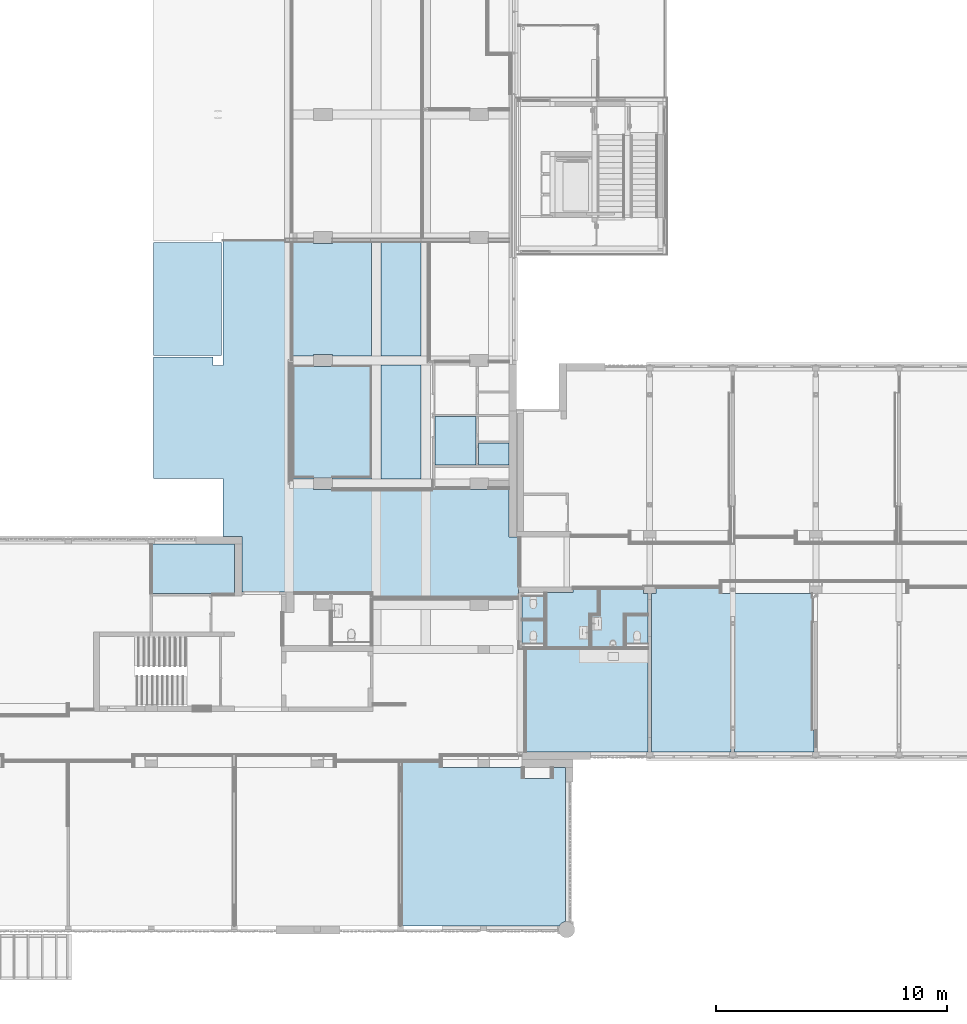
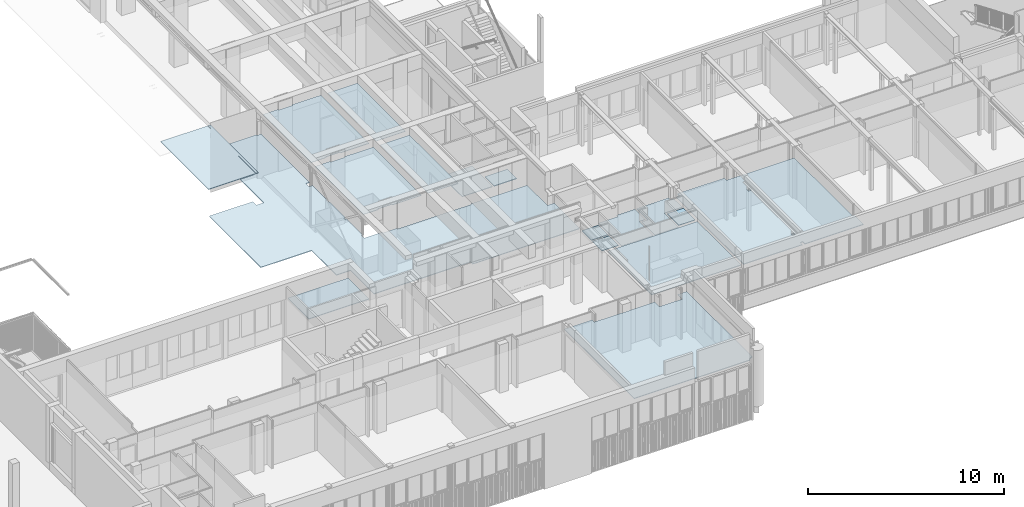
# One storey, part 32 of 117: 17 slabs.
"""IFC2X3 building model written with IfcOpenShell, lengths in millimetres."""

from ifc_helpers import new_model, entity, si_unit, converted_unit, derived_unit, money_unit, direction, frame, origin_with_axes, place, context, subcontext, project, spatial, faceted_brep, material, type_object, element, save


model = new_model("IFC2X3")

# Units and contexts
model_context = context("Model", 3, precision=0.01, world=origin_with_axes(), true_north=direction((0.0, 1.0)))
body_context = subcontext(model_context, "Body", "Model", "MODEL_VIEW")
ifc_project = project(units=[si_unit("LENGTHUNIT", "METRE", prefix="MILLI"), si_unit("AREAUNIT", "SQUARE_METRE"), si_unit("VOLUMEUNIT", "CUBIC_METRE"), converted_unit("PLANEANGLEUNIT", "DEGREE", entity("IfcPlaneAngleMeasure", 0.0174532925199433), si_unit("PLANEANGLEUNIT", "RADIAN"), dimensions=[0, 0, 0, 0, 0, 0, 0]), money_unit("EUR"), converted_unit("TIMEUNIT", "Year", entity("IfcTimeMeasure", 31557600.0), si_unit("TIMEUNIT", "SECOND"), dimensions=[0, 0, 1, 0, 0, 0, 0]), si_unit("MASSUNIT", "GRAM", prefix="KILO"), si_unit("THERMODYNAMICTEMPERATUREUNIT", "DEGREE_CELSIUS"), si_unit("LUMINOUSINTENSITYUNIT", "LUMEN"), si_unit("ENERGYUNIT", "JOULE", prefix="MEGA"), derived_unit("THERMALCONDUCTANCEUNIT", [(si_unit("POWERUNIT", "WATT"), 1), (si_unit("LENGTHUNIT", "METRE"), -1), (si_unit("THERMODYNAMICTEMPERATUREUNIT", "KELVIN"), -1)]), derived_unit("SPECIFICHEATCAPACITYUNIT", [(si_unit("ENERGYUNIT", "JOULE"), 1), (si_unit("MASSUNIT", "GRAM", prefix="KILO"), -1), (si_unit("THERMODYNAMICTEMPERATUREUNIT", "KELVIN"), -1)]), derived_unit("MASSDENSITYUNIT", [(si_unit("MASSUNIT", "GRAM", prefix="KILO"), 1), (si_unit("VOLUMEUNIT", "CUBIC_METRE"), -1)])], contexts=[model_context])

# Site, building, storey
site_placement = place(None, origin_with_axes())
site = spatial("IfcSite", under=ifc_project, at=site_placement, Name="Site", CompositionType="ELEMENT")
building_placement = place(site_placement, origin_with_axes())
building = spatial("IfcBuilding", under=site, at=building_placement, Name="Naam gebouw", CompositionType="ELEMENT")
storey_placement = place(building_placement, frame((0.0, 0.0, 4150.0), z_axis=(0.0, 0.0, 1.0), x_axis=(1.0, 0.0, 0.0)))
storey = spatial("IfcBuildingStorey", under=building, at=storey_placement, Name="1e verdieping N", CompositionType="ELEMENT", Elevation=4150.0)

# Slabs
ifc_material = material(Name="ALG - BINNENAFWERKING")
slab_type_1 = type_object("IfcSlabType", Name="ALG - BINNENAFWERKING 40", PredefinedType="NOTDEFINED")
slab_1_placement = place(storey_placement, frame((36270.00000536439, 17870.91239447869, 2450.0), z_axis=(0.0, 0.0, 1.0), x_axis=(1.0, 0.0, 0.0)))
element("IfcSlab", 1, at=slab_1_placement, inside=storey, type_object=slab_type_1, material=ifc_material, Name="_Vloer-x", PredefinedType="NOTDEFINED", context=body_context, shape_type="Brep", body=[
    faceted_brep([(3269.999994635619, -5914.999969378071, 40.00000000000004), (3389.999994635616, -5914.999969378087, 40.00000000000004), (3389.999994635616, -5794.999969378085, 40.00000000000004), (3269.999994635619, -5794.999969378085, 40.00000000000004), (3269.999994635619, -5914.999969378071, 0.0), (3389.999994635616, -5914.999969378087, 0.0), (3389.999994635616, -5794.999969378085, 0.0), (3269.999994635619, -5794.999969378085, 0.0)], [[[0, 1, 2, 3]], [[4, 5, 1, 0]], [[5, 6, 2, 1]], [[3, 2, 6, 7]], [[7, 4, 0, 3]], [[7, 6, 5, 4]]]),
    faceted_brep([(3269.999994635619, -1369.999969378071, 40.00000000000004), (3389.999994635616, -1369.999969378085, 40.00000000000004), (3389.999994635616, -1249.999969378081, 40.00000000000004), (3269.999994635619, -1249.999969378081, 40.00000000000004), (3269.999994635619, -1369.999969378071, 0.0), (3389.999994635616, -1369.999969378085, 0.0), (3389.999994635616, -1249.999969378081, 0.0), (3269.999994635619, -1249.999969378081, 0.0)], [[[0, 1, 2, 3]], [[4, 5, 1, 0]], [[5, 6, 2, 1]], [[3, 2, 6, 7]], [[7, 4, 0, 3]], [[7, 6, 5, 4]]]),
    faceted_brep([(3414.999994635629, -1224.999969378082, 0.0), (3414.999994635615, -1249.999969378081, 0.0), (3414.999994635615, -1249.999969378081, 40.00000000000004), (3414.999994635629, -1224.999969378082, 40.00000000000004), (-195.0000053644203, -6879.999969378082, 0.0), (-195.0000053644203, 0.0, 0.0), (0.0, 0.0, 0.0), (0.0, 225.0000306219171, 0.0), (2759.99999448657, 225.0000306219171, 0.0), (2759.99999448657, 0.0, 0.0), (6754.999994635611, 0.0, 0.0), (6754.999994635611, -5939.999919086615, 0.0), (6855.000001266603, -5939.999919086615, 0.0), (6855.000001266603, -6879.999969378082, 0.0), (3404.999955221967, -6879.999969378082, 0.0), (3404.999955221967, -6669.999969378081, 0.0), (3255.000040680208, -6669.999969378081, 0.0), (3255.000040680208, -6879.999969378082, 0.0), (3414.999994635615, -5939.999969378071, 0.0), (3414.999994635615, -5914.999969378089, 0.0), (3414.999994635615, -5794.999969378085, 0.0), (3414.999994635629, -5769.999969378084, 0.0), (3269.999994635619, -5769.999969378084, 0.0), (3244.99999463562, -5769.999969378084, 0.0), (3244.99999463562, -5939.999969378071, 0.0), (3269.999994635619, -5939.999969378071, 0.0), (3414.999994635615, -1394.99996937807, 0.0), (3414.999994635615, -1369.999969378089, 0.0), (3269.999994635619, -1224.999969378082, 0.0), (3244.99999463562, -1224.999969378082, 0.0), (3244.99999463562, -1394.99996937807, 0.0), (3269.999994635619, -1394.99996937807, 0.0), (3414.999994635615, -1369.999969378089, 40.00000000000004), (2759.99999448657, 225.0000306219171, 40.00000000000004), (0.0, 225.0000306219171, 40.00000000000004), (0.0, 0.0, 40.00000000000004), (-195.0000053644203, 0.0, 40.00000000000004), (-195.0000053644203, -6879.999969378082, 40.00000000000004), (3255.000040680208, -6879.999969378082, 40.00000000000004), (3255.000040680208, -6669.999969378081, 40.00000000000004), (3404.999955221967, -6669.999969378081, 40.00000000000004), (3404.999955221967, -6879.999969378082, 40.00000000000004), (6855.000001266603, -6879.999969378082, 40.00000000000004), (6855.000001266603, -5939.999919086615, 40.00000000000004), (6754.999994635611, -5939.999919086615, 40.00000000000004), (6754.999994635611, 0.0, 40.00000000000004), (2759.99999448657, 0.0, 40.00000000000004), (3414.999994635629, -5769.999969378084, 40.00000000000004), (3414.999994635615, -5794.999969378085, 40.00000000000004), (3414.999994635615, -5914.999969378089, 40.00000000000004), (3414.999994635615, -5939.999969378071, 40.00000000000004), (3269.999994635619, -5939.999969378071, 40.00000000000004), (3244.99999463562, -5939.999969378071, 40.00000000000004), (3244.99999463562, -5769.999969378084, 40.00000000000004), (3269.999994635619, -5769.999969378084, 40.00000000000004), (3414.999994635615, -1394.99996937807, 40.00000000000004), (3269.999994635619, -1394.99996937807, 40.00000000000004), (3244.99999463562, -1394.99996937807, 40.00000000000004), (3244.99999463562, -1224.999969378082, 40.00000000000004), (3269.999994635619, -1224.999969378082, 40.00000000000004)], [[[0, 1, 2, 3]], [[4, 5, 6, 7, 8, 9, 10, 11, 12, 13, 14, 15, 16, 17], [18, 19, 20, 21, 22, 23, 24, 25], [26, 27, 1, 0, 28, 29, 30, 31]], [[27, 32, 2, 1]], [[33, 34, 35, 36, 37, 38, 39, 40, 41, 42, 43, 44, 45, 46], [47, 48, 49, 50, 51, 52, 53, 54], [3, 2, 32, 55, 56, 57, 58, 59]], [[0, 3, 59, 28]], [[37, 36, 5, 4]], [[36, 35, 6, 5]], [[35, 34, 7, 6]], [[34, 33, 8, 7]], [[33, 46, 9, 8]], [[46, 45, 10, 9]], [[45, 44, 11, 10]], [[44, 43, 12, 11]], [[43, 42, 13, 12]], [[42, 41, 14, 13]], [[41, 40, 15, 14]], [[40, 39, 16, 15]], [[39, 38, 17, 16]], [[38, 37, 4, 17]], [[50, 49, 19, 18]], [[19, 49, 48, 20]], [[21, 20, 48, 47]], [[21, 47, 54, 22]], [[23, 22, 54, 53]], [[23, 53, 52, 24]], [[52, 51, 25, 24]], [[25, 51, 50, 18]], [[55, 32, 27, 26]], [[29, 28, 59, 58]], [[29, 58, 57, 30]], [[57, 56, 31, 30]], [[31, 56, 55, 26]]]),
])
slab_2_placement = place(storey_placement, frame((30656.99999999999, 10990.91242510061, 2450.0), z_axis=(0.0, 0.0, 1.0), x_axis=(1.0, 0.0, 0.0)))
element("IfcSlab", 2, at=slab_2_placement, inside=storey, type_object=slab_type_1, material=ifc_material, Name="_Vloer-x", PredefinedType="NOTDEFINED", context=body_context, shape_type="Brep", body=[
    faceted_brep([(0.0, 0.0, 40.00000000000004), (0.0, 0.0, 0.0), (5268.000000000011, 0.0, 0.0), (5268.000000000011, 0.0, 40.00000000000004), (0.0, 4450.000000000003, 40.00000000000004), (0.0, 4450.000000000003, 0.0), (5268.000000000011, 4450.000000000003, 0.0), (5268.000000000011, 4450.000000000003, 40.00000000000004)], [[[0, 1, 2, 3]], [[4, 5, 1, 0]], [[2, 1, 5, 6]], [[3, 2, 6, 7]], [[4, 0, 3, 7]], [[7, 6, 5, 4]]]),
])
slab_3_placement = place(storey_placement, frame((25275.0, 10555.91242510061, 2450.0), z_axis=(0.0, 0.0, 1.0), x_axis=(1.0, 0.0, 0.0)))
element("IfcSlab", 3, at=slab_3_placement, inside=storey, type_object=slab_type_1, material=ifc_material, Name="_Vloer-x", PredefinedType="NOTDEFINED", context=body_context, shape_type="Brep", body=[
    faceted_brep([(5181.999999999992, -224.9999999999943, 0.0), (3775.000000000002, -224.9999999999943, 0.0), (3775.000000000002, -224.9999999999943, 40.00000000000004), (5181.999999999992, -224.9999999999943, 40.00000000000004), (3275.000000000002, -237.5000000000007, 0.0), (3775.000000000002, -237.5000000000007, 0.0), (5181.999999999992, -699.9999999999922, 0.0), (6536.187099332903, -699.9999999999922, 0.0), (6536.187099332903, -224.9999999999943, 0.0), (7070.470260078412, -224.9999999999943, 0.0), (7070.470260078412, -6910.277963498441, 0.0), (7026.393605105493, -6919.866252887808, 0.0), (6979.60474544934, -6937.317595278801, 0.0), (6935.775713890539, -6961.250057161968, 0.0), (6895.798743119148, -6991.176442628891, 0.0), (6860.487648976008, -7026.487536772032, 0.0), (6830.561263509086, -7066.464507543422, 0.0), (6806.656006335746, -7110.243717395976, 0.0), (0.0, -7110.243717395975, 0.0), (0.0, 0.0, 0.0), (1624.999999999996, 0.0, 0.0), (1624.999999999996, -224.9999999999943, 0.0), (3275.000000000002, -224.9999999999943, 0.0), (3775.000000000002, -237.5000000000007, 40.00000000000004), (3275.000000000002, -237.5000000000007, 40.00000000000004), (3275.000000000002, -224.9999999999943, 40.00000000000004), (1624.999999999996, -224.9999999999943, 40.00000000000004), (1624.999999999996, 0.0, 40.00000000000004), (0.0, 0.0, 40.00000000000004), (0.0, -7110.243717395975, 40.00000000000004), (6806.656006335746, -7110.243717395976, 40.00000000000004), (6830.561263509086, -7066.464507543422, 40.00000000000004), (6860.487648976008, -7026.487536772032, 40.00000000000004), (6895.798743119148, -6991.176442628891, 40.00000000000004), (6935.775713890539, -6961.250057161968, 40.00000000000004), (6979.60474544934, -6937.317595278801, 40.00000000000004), (7026.393605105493, -6919.866252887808, 40.00000000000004), (7070.470260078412, -6910.277963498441, 40.00000000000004), (7070.470260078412, -224.9999999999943, 40.00000000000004), (6536.187099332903, -224.9999999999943, 40.00000000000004), (6536.187099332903, -699.9999999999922, 40.00000000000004), (5181.999999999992, -699.9999999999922, 40.00000000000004)], [[[0, 1, 2, 3]], [[4, 5, 1, 0, 6, 7, 8, 9, 10, 11, 12, 13, 14, 15, 16, 17, 18, 19, 20, 21, 22]], [[5, 23, 2, 1]], [[23, 24, 25, 26, 27, 28, 29, 30, 31, 32, 33, 34, 35, 36, 37, 38, 39, 40, 41, 3, 2]], [[0, 3, 41, 6]], [[4, 24, 23, 5]], [[6, 41, 40, 7]], [[7, 40, 39, 8]], [[8, 39, 38, 9]], [[38, 37, 10, 9]], [[11, 10, 37, 36]], [[11, 36, 35, 12]], [[12, 35, 34, 13]], [[13, 34, 33, 14]], [[14, 33, 32, 15]], [[15, 32, 31, 16]], [[16, 31, 30, 17]], [[18, 17, 30, 29]], [[18, 29, 28, 19]], [[19, 28, 27, 20]], [[20, 27, 26, 21]], [[26, 25, 22, 21]], [[4, 22, 25, 24]]]),
])
slab_4_placement = place(storey_placement, frame((34975.00000000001, 15690.91242510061, 2400.0), z_axis=(0.0, 0.0, 1.0), x_axis=(1.0, 0.0, 0.0)))
element("IfcSlab", 4, at=slab_4_placement, inside=storey, type_object=slab_type_1, material=ifc_material, Name="_Vloer-x", PredefinedType="NOTDEFINED", context=body_context, shape_type="Brep", body=[
    faceted_brep([(949.9999999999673, 0.0, 0.0), (949.9999999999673, 1200.000000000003, 0.0), (949.9999999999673, 1200.000000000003, 39.99999999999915), (949.9999999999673, 0.0, 39.99999999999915), (0.0, 0.0, 0.0), (0.0, 1200.000000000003, 0.0), (0.0, 1200.000000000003, 39.99999999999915), (0.0, 0.0, 39.99999999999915)], [[[0, 1, 2, 3]], [[4, 5, 1, 0]], [[5, 6, 2, 1]], [[3, 2, 6, 7]], [[3, 7, 4, 0]], [[7, 6, 5, 4]]]),
])
slab_5_placement = place(storey_placement, frame((30456.99999999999, 15800.91241914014, 2400.0), z_axis=(0.0, 0.0, 1.0), x_axis=(1.0, 0.0, 0.0)))
element("IfcSlab", 5, at=slab_5_placement, inside=storey, type_object=slab_type_1, material=ifc_material, Name="_Vloer-x", PredefinedType="NOTDEFINED", context=body_context, shape_type="Brep", body=[
    faceted_brep([(0.0, -109.99999403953, 39.99999999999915), (0.0, -109.99999403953, 0.0), (972.187094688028, -109.99999403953, 0.0), (972.187094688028, -109.99999403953, 39.99999999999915), (0.0, 870.0000059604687, 39.99999999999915), (0.0, 870.0000059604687, 0.0), (972.187094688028, 870.0000059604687, 0.0), (972.187094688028, 870.0000059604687, 39.99999999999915)], [[[0, 1, 2, 3]], [[4, 5, 1, 0]], [[1, 5, 6, 2]], [[3, 2, 6, 7]], [[4, 0, 3, 7]], [[7, 6, 5, 4]]]),
])
slab_6_placement = place(storey_placement, frame((30456.99999999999, 16770.91242510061, 2400.0), z_axis=(0.0, 0.0, 1.0), x_axis=(1.0, 0.0, 0.0)))
element("IfcSlab", 6, at=slab_6_placement, inside=storey, type_object=slab_type_1, material=ifc_material, Name="_Vloer-x", PredefinedType="NOTDEFINED", context=body_context, shape_type="Brep", body=[
    faceted_brep([(0.0, 0.0, 39.99999999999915), (0.0, 0.0, 0.0), (972.187094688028, 0.0, 0.0), (972.187094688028, 0.0, 39.99999999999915), (0.0, 980.0000000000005, 39.99999999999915), (0.0, 980.0000000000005, 0.0), (972.187094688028, 980.0000000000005, 0.0), (972.187094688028, 980.0000000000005, 39.99999999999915)], [[[0, 1, 2, 3]], [[4, 5, 1, 0]], [[2, 1, 5, 6]], [[3, 2, 6, 7]], [[4, 0, 3, 7]], [[7, 6, 5, 4]]]),
])
slab_7_placement = place(storey_placement, frame((31529.18709933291, 15540.91242510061, 2400.0), z_axis=(0.0, 0.0, 1.0), x_axis=(1.0, 0.0, 0.0)))
element("IfcSlab", 7, at=slab_7_placement, inside=storey, type_object=slab_type_1, material=ifc_material, Name="_Vloer-x", PredefinedType="NOTDEFINED", context=body_context, shape_type="Brep", body=[
    faceted_brep([(0.0, 0.0, 39.99999999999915), (0.0, 0.0, 0.0), (1853.931081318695, 0.0, 0.0), (1853.931081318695, 0.0, 39.99999999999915), (0.0, 2360.000002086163, 39.99999999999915), (0.0, 2360.000002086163, 0.0), (1139.999999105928, 2360.000002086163, 0.0), (1139.999999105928, 2509.999999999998, 0.0), (2220.000014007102, 2509.999999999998, 0.0), (2220.000014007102, 1450.000004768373, 0.0), (1853.931081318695, 1450.000004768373, 0.0), (1853.931081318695, 1450.000004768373, 39.99999999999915), (2220.000014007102, 1450.000004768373, 39.99999999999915), (2220.000014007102, 2509.999999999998, 39.99999999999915), (1139.999999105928, 2509.999999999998, 39.99999999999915), (1139.999999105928, 2360.000002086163, 39.99999999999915)], [[[0, 1, 2, 3]], [[4, 5, 1, 0]], [[2, 1, 5, 6, 7, 8, 9, 10]], [[3, 2, 10, 11]], [[4, 0, 3, 11, 12, 13, 14, 15]], [[15, 6, 5, 4]], [[14, 7, 6, 15]], [[13, 8, 7, 14]], [[12, 9, 8, 13]], [[11, 10, 9, 12]]]),
])
slab_8_placement = place(storey_placement, frame((33483.11817762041, 15540.91242510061, 2400.0), z_axis=(0.0, 0.0, 1.0), x_axis=(1.0, 0.0, 0.0)))
element("IfcSlab", 8, at=slab_8_placement, inside=storey, type_object=slab_type_1, material=ifc_material, Name="_Vloer-x", PredefinedType="NOTDEFINED", context=body_context, shape_type="Brep", body=[
    faceted_brep([(0.0, 0.0, 39.99999999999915), (0.0, 0.0, 0.0), (1391.881822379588, 0.0, 0.0), (1391.881822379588, 0.0, 39.99999999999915), (0.0, 1350.000000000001, 39.99999999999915), (0.0, 1350.000000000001, 0.0), (366.0689217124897, 1350.000000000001, 0.0), (366.0689217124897, 2509.999999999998, 0.0), (2246.881822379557, 2509.999999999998, 0.0), (2246.881822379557, 2329.999999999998, 0.0), (2441.881826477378, 2329.999999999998, 0.0), (2441.881826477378, 1450.000000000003, 0.0), (1391.881822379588, 1450.000000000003, 0.0), (1391.881822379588, 1450.000000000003, 39.99999999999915), (2441.881826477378, 1450.000000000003, 39.99999999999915), (2441.881826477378, 2329.999999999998, 39.99999999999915), (2246.881822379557, 2329.999999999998, 39.99999999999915), (2246.881822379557, 2509.999999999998, 39.99999999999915), (366.0689217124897, 2509.999999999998, 39.99999999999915), (366.0689217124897, 1350.000000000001, 39.99999999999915)], [[[0, 1, 2, 3]], [[4, 5, 1, 0]], [[2, 1, 5, 6, 7, 8, 9, 10, 11, 12]], [[3, 2, 12, 13]], [[4, 0, 3, 13, 14, 15, 16, 17, 18, 19]], [[19, 6, 5, 4]], [[18, 7, 6, 19]], [[17, 8, 7, 18]], [[16, 9, 8, 17]], [[15, 10, 9, 16]], [[14, 11, 10, 15]], [[13, 12, 11, 14]]]),
])
slab_9_placement = place(storey_placement, frame((14450.0, 17856.42315075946, 2450.0), z_axis=(0.0, 0.0, 1.0), x_axis=(1.0, 0.0, 0.0)))
element("IfcSlab", 9, at=slab_9_placement, inside=storey, type_object=slab_type_1, material=ifc_material, Name="_Vloer-x", PredefinedType="NOTDEFINED", context=body_context, shape_type="Brep", body=[
    faceted_brep([(3550.000009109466, 2139.490066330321, 0.0), (87.50000000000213, 2139.490066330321, 0.0), (87.50000000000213, 2139.490066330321, 40.00000000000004), (3550.000009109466, 2139.490066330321, 40.00000000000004), (0.0, 2139.471377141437, 0.0), (87.50000000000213, 2139.471377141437, 0.0), (3550.000009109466, 0.0, 0.0), (0.0, 0.0, 0.0), (87.50000000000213, 2139.471377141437, 40.00000000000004), (0.0, 2139.471377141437, 40.00000000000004), (0.0, 0.0, 40.00000000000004), (3550.000009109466, 0.0, 40.00000000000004)], [[[0, 1, 2, 3]], [[4, 5, 1, 0, 6, 7]], [[5, 8, 2, 1]], [[2, 8, 9, 10, 11, 3]], [[6, 0, 3, 11]], [[4, 9, 8, 5]], [[7, 6, 11, 10]], [[10, 9, 4, 7]]]),
])
slab_10_placement = place(storey_placement, frame((28576.0, 23425.91242510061, 2400.0), z_axis=(0.0, 0.0, 1.0), x_axis=(1.0, 0.0, 0.0)))
element("IfcSlab", 10, at=slab_10_placement, inside=storey, type_object=slab_type_1, material=ifc_material, Name="_Vloer-x", PredefinedType="NOTDEFINED", context=body_context, shape_type="Brep", body=[
    faceted_brep([(0.0, 0.0, 39.99999999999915), (0.0, 0.0, 0.0), (1329.999999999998, 0.0, 0.0), (1329.999999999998, 0.0, 39.99999999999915), (0.0, 949.8533992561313, 39.99999999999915), (0.0, 949.8533992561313, 0.0), (1329.999999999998, 949.8533992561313, 0.0), (1329.999999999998, 949.8533992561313, 39.99999999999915)], [[[0, 1, 2, 3]], [[4, 5, 1, 0]], [[2, 1, 5, 6]], [[3, 2, 6, 7]], [[4, 0, 3, 7]], [[7, 6, 5, 4]]]),
])
slab_11_placement = place(storey_placement, frame((28475.99999160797, 25525.76582988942, 2400.0), z_axis=(0.0, 0.0, 1.0), x_axis=(1.0, 0.0, 0.0)))
element("IfcSlab", 11, at=slab_11_placement, inside=storey, type_object=slab_type_1, material=ifc_material, Name="_Vloer-x", PredefinedType="NOTDEFINED", context=body_context, shape_type="Brep", body=[
    faceted_brep([(0.0, 0.0, 39.99999999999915), (0.0, 0.0, 0.0), (-1789.999991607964, 0.0, 0.0), (-1789.999991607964, 0.0, 39.99999999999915), (0.0, -2099.853404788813, 39.99999999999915), (0.0, -2099.853404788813, 0.0), (-1789.999991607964, -2099.853404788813, 0.0), (-1789.999991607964, -2099.853404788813, 39.99999999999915)], [[[0, 1, 2, 3]], [[4, 5, 1, 0]], [[2, 1, 5, 6]], [[3, 2, 6, 7]], [[4, 0, 3, 7]], [[7, 6, 5, 4]]]),
])
slab_12_placement = place(storey_placement, frame((14507.00000003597, 33070.91242630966, 4239.999999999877), z_axis=(0.0, 0.0, 1.0), x_axis=(1.0, 0.0, 0.0)))
element("IfcSlab", 12, at=slab_12_placement, inside=storey, type_object=slab_type_1, material=ifc_material, Name="_Vloer-x", PredefinedType="NOTDEFINED", context=body_context, shape_type="Brep", body=[
    faceted_brep([(0.0, -4899.999999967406, 40.00000000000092), (2777.892304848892, -4899.999999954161, 40.00000000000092), (2777.892304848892, 2.867039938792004e-08, 40.00000000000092), (0.0, 0.0, 40.00000000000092), (2766.00000000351, -4899.999999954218, 22.61731409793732), (2775.882685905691, -4899.999999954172, 32.50000000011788), (0.0, -4899.999999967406, 0.0), (2635.00000000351, -4899.999999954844, 1.172395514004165e-10), (2635.00000000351, -4899.999999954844, 19.00000000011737), (2752.500000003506, -4899.999999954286, 19.00000000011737), (2775.882685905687, 2.953015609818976e-08, 32.50000000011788), (2752.500000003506, 2.941646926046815e-08, 19.00000000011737), (2635.00000000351, 2.885514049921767e-08, 19.00000000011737), (2635.00000000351, 2.719957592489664e-08, 1.172395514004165e-10), (0.0, 0.0, 0.0), (2766.000000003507, 2.948041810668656e-08, 22.61731409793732)], [[[0, 1, 2, 3]], [[4, 5, 1, 0, 6, 7, 8, 9]], [[5, 10, 2, 1]], [[11, 12, 13, 14, 3, 2, 10, 15]], [[0, 3, 14, 6]], [[4, 15, 10, 5]], [[14, 13, 7, 6]], [[7, 13, 12, 8]], [[8, 12, 11, 9]], [[9, 11, 15, 4]]]),
    faceted_brep([(2933.99999995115, -4899.999999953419, 40.00000000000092), (2933.99999995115, -4899.999999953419, 19.00000000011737), (2933.999999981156, 3.028333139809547e-08, 19.00000000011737), (2933.999999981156, 3.028333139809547e-08, 40.00000000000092), (2804.00000000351, -4899.999999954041, 22.61731409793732), (2817.500000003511, -4899.999999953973, 19.00000000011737), (2792.107695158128, -4899.999999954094, 40.00000000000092), (2794.11731410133, -4899.999999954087, 32.50000000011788), (2817.500000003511, 2.972910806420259e-08, 19.00000000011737), (2804.00000000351, 2.966515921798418e-08, 22.61731409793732), (2794.11731410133, 2.961542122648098e-08, 32.50000000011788), (2792.107695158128, 2.881961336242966e-08, 40.00000000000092)], [[[0, 1, 2, 3]], [[4, 5, 1, 0, 6, 7]], [[5, 8, 2, 1]], [[9, 10, 11, 3, 2, 8]], [[3, 11, 6, 0]], [[4, 9, 8, 5]], [[6, 11, 10, 7]], [[7, 10, 9, 4]]]),
])
slab_13_placement = place(storey_placement, frame((14507.00000000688, 22850.91242509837, 2609.999999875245), z_axis=(0.0, 0.0, 1.0), x_axis=(1.0, 0.0, 0.0)))
element("IfcSlab", 13, at=slab_13_placement, inside=storey, type_object=slab_type_1, material=ifc_material, Name="_Vloer-x", PredefinedType="NOTDEFINED", context=body_context, shape_type="Brep", body=[
    faceted_brep([(12078.99999999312, -474.9999076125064, 40.00000000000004), (12078.99999999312, -530.8146167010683, 40.00000000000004), (7738.999999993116, -530.8146167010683, 40.00000000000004), (7738.999999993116, -474.9999076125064, 40.00000000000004), (6918.999999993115, -474.9999076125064, 40.00000000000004), (6918.999999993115, -394.9843738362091, 40.00000000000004), (6029.000044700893, -394.9843738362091, 40.00000000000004), (5864.000000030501, -394.9843738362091, 40.00000000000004), (5864.000000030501, -94.98437378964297, 40.00000000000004), (5928.999999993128, -94.98437378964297, 40.00000000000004), (5928.999999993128, 4980.000001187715, 40.00000000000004), (5914.000000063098, 4980.000001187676, 40.00000000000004), (5704.000000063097, 4980.000001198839, 40.00000000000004), (5704.000000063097, 5300.000001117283, 40.00000000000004), (5928.999999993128, 5300.000001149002, 40.00000000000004), (5928.999999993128, 10234.99993741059, 40.00000000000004), (5698.999925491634, 10234.99993741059, 40.00000000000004), (5698.999925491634, 10305.00006258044, 40.00000000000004), (2999.000041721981, 10305.00006258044, 40.00000000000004), (2999.000041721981, 4890.000032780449, 40.00000000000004), (2568.999979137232, 4890.000032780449, 40.00000000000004), (2568.999979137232, 5254.999979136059, 40.00000000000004), (0.0, 5254.999979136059, 40.00000000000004), (0.0, 0.0, 40.00000000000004), (2999.000041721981, 0.0, 40.00000000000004), (2999.000041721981, -2524.997451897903, 40.00000000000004), (3822.999961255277, -2524.997451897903, 40.00000000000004), (3822.999961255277, -4926.161278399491, 40.00000000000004), (9495.999934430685, -4926.161278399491, 40.00000000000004), (9495.999934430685, -5134.99999999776, 40.00000000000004), (15799.9999999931, -5134.99999999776, 40.00000000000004), (15799.9999999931, -4799.999999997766, 40.00000000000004), (15797.99999999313, -4799.999999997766, 40.00000000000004), (15797.99999999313, -4699.999999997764, 40.00000000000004), (15799.9999999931, -4699.999999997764, 40.00000000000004), (15799.9999999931, -2550.000086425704, 40.00000000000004), (15399.00008343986, -2550.000086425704, 40.00000000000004), (15399.00008343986, -474.9999076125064, 40.00000000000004), (5876.499999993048, 3247.408009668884, 40.00000000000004), (5866.49999999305, 3247.408009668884, 40.00000000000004), (5866.49999999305, 3413.170430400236, 40.00000000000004), (5876.499999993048, 3413.170430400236, 40.00000000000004), (5861.499999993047, 1527.156852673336, 40.00000000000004), (5851.499999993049, 1527.156852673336, 40.00000000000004), (5851.499999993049, 1692.919273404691, 40.00000000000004), (5861.499999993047, 1692.919273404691, 40.00000000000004), (12078.99999999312, -474.9999076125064, 0.0), (12078.99999999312, -530.8146167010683, 0.0), (7738.999999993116, -530.8146167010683, 0.0), (7738.999999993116, -474.9999076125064, 0.0), (6918.999999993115, -474.9999076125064, 0.0), (6918.999999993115, -394.9843738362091, 0.0), (6029.000044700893, -394.9843738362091, 0.0), (5864.000000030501, -394.9843738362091, 0.0), (5864.000000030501, -94.98437378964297, 0.0), (5928.999999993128, -94.98437378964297, 0.0), (5928.999999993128, 4980.000001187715, 0.0), (5914.000000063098, 4980.000001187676, 0.0), (5704.000000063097, 4980.000001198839, 0.0), (5704.000000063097, 5300.000001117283, 0.0), (5928.999999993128, 5300.000001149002, 0.0), (5928.999999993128, 10234.99993741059, 0.0), (5698.999925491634, 10234.99993741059, 0.0), (5698.999925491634, 10305.00006258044, 0.0), (2999.000041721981, 10305.00006258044, 0.0), (2999.000041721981, 4890.000032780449, 0.0), (2568.999979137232, 4890.000032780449, 0.0), (2568.999979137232, 5254.999979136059, 0.0), (0.0, 5254.999979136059, 0.0), (0.0, 0.0, 0.0), (2999.000041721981, 0.0, 0.0), (2999.000041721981, -2524.997451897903, 0.0), (3822.999961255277, -2524.997451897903, 0.0), (3822.999961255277, -4926.161278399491, 0.0), (9495.999934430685, -4926.161278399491, 0.0), (9495.999934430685, -5134.99999999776, 0.0), (15799.9999999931, -5134.99999999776, 0.0), (15799.9999999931, -4799.999999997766, 0.0), (15797.99999999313, -4799.999999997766, 0.0), (15797.99999999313, -4699.999999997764, 0.0), (15799.9999999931, -4699.999999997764, 0.0), (15799.9999999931, -2550.000086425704, 0.0), (15399.00008343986, -2550.000086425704, 0.0), (15399.00008343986, -474.9999076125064, 0.0), (5866.49999999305, 3194.527495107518, 0.0), (5876.499999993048, 3194.527495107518, 0.0), (5866.49999999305, 3360.28991583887, 0.0), (5876.499999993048, 3360.28991583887, 0.0), (5861.499999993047, 1580.037367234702, 0.0), (5851.499999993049, 1580.037367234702, 0.0), (5851.499999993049, 1745.799787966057, 0.0), (5861.499999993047, 1745.799787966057, 0.0)], [[[0, 1, 2, 3, 4, 5, 6, 7, 8, 9, 10, 11, 12, 13, 14, 15, 16, 17, 18, 19, 20, 21, 22, 23, 24, 25, 26, 27, 28, 29, 30, 31, 32, 33, 34, 35, 36, 37], [38, 39, 40, 41], [42, 43, 44, 45]], [[1, 0, 46, 47]], [[47, 48, 2, 1]], [[49, 3, 2, 48]], [[50, 4, 3, 49]], [[51, 5, 4, 50]], [[5, 51, 52, 6]], [[52, 53, 7, 6]], [[53, 54, 8, 7]], [[8, 54, 55, 9]], [[9, 55, 56, 10]], [[57, 11, 10, 56]], [[58, 12, 11, 57]], [[58, 59, 13, 12]], [[13, 59, 60, 14]], [[14, 60, 61, 15]], [[62, 16, 15, 61]], [[63, 17, 16, 62]], [[64, 18, 17, 63]], [[65, 19, 18, 64]], [[66, 20, 19, 65]], [[67, 21, 20, 66]], [[68, 22, 21, 67]], [[69, 23, 22, 68]], [[70, 24, 23, 69]], [[71, 25, 24, 70]], [[72, 26, 25, 71]], [[73, 27, 26, 72]], [[74, 28, 27, 73]], [[75, 29, 28, 74]], [[76, 30, 29, 75]], [[30, 76, 77, 31]], [[77, 78, 32, 31]], [[32, 78, 79, 33]], [[33, 79, 80, 34]], [[81, 35, 34, 80]], [[82, 36, 35, 81]], [[83, 37, 36, 82]], [[37, 83, 46, 0]], [[84, 39, 38, 85]], [[86, 40, 39, 84]], [[87, 41, 40, 86]], [[85, 38, 41, 87]], [[42, 88, 89, 43]], [[43, 89, 90, 44]], [[44, 90, 91, 45]], [[45, 91, 88, 42]], [[49, 48, 47, 46, 83, 82, 81, 80, 79, 78, 77, 76, 75, 74, 73, 72, 71, 70, 69, 68, 67, 66, 65, 64, 63, 62, 61, 60, 59, 58, 57, 56, 55, 54, 53, 52, 51, 50], [86, 84, 85, 87], [90, 89, 88, 91]]]),
])
slab_type_2 = type_object("IfcSlabType", Name="ALG - BINNENAFWERKING 25", PredefinedType="NOTDEFINED")
for number, where, z_axis, x_axis, name in (
    (14, (24349.99999999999, 22825.91242510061, 3815.0), (0.0, 0.0, 1.0), (1.0, 0.0, 0.0), "_Vloer-x"),
    (15, (24349.99999999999, 28155.91242510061, 3815.0), (0.0, 0.0, 1.0), (1.0, 0.0, 0.0), "_Vloer-x"),
):
    element("IfcSlab", number, at=place(storey_placement, frame(where, z_axis=z_axis, x_axis=x_axis)), inside=storey, type_object=slab_type_2, material=ifc_material, Name=name, PredefinedType="NOTDEFINED", context=body_context, shape_type="Brep", body=[
        faceted_brep([(0.0, 0.0, 25.00000000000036), (0.0, 0.0, 0.0), (1741.999964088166, 0.0, 0.0), (1741.999964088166, 0.0, 25.00000000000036), (0.0, 4929.999999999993, 25.00000000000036), (0.0, 4929.999999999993, 0.0), (1741.999964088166, 4929.999999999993, 0.0), (1741.999964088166, 4929.999999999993, 25.00000000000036)], [[[0, 1, 2, 3]], [[4, 5, 1, 0]], [[2, 1, 5, 6]], [[3, 2, 6, 7]], [[4, 0, 3, 7]], [[7, 6, 5, 4]]]),
    ])
slab_14_placement = place(storey_placement, frame((20536.00004470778, 28155.91242751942, 3815.0), z_axis=(0.0, 0.0, 1.0), x_axis=(1.0, 0.0, 0.0)))
element("IfcSlab", 16, at=slab_14_placement, inside=storey, type_object=slab_type_2, material=ifc_material, Name="_Vloer-x", PredefinedType="NOTDEFINED", context=body_context, shape_type="Brep", body=[
    faceted_brep([(0.0, 0.0, 25.00000000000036), (0.0, 0.0, 0.0), (889.9999552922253, 0.0, 0.0), (889.9999552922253, 0.0, 25.00000000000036), (0.0, 4929.999999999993, 25.00000000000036), (0.0, 4929.999999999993, 0.0), (889.9999552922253, 4929.999999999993, 0.0), (889.9999552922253, 4867.499999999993, 0.0), (1709.999955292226, 4867.499999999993, 0.0), (1709.999955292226, 4929.999999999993, 0.0), (3413.999955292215, 4929.999999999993, 0.0), (3413.999955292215, 0.0, 0.0), (1709.999955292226, 0.0, 0.0), (1709.999955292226, 62.5, 0.0), (889.9999552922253, 62.5, 0.0), (889.9999552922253, 62.5, 25.00000000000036), (1709.999955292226, 62.5, 25.00000000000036), (1709.999955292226, 0.0, 25.00000000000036), (3413.999955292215, 0.0, 25.00000000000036), (3413.999955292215, 4929.999999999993, 25.00000000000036), (1709.999955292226, 4929.999999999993, 25.00000000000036), (1709.999955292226, 4867.499999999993, 25.00000000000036), (889.9999552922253, 4867.499999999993, 25.00000000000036), (889.9999552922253, 4929.999999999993, 25.00000000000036)], [[[0, 1, 2, 3]], [[4, 5, 1, 0]], [[2, 1, 5, 6, 7, 8, 9, 10, 11, 12, 13, 14]], [[3, 2, 14, 15]], [[4, 0, 3, 15, 16, 17, 18, 19, 20, 21, 22, 23]], [[23, 6, 5, 4]], [[22, 7, 6, 23]], [[21, 8, 7, 22]], [[20, 9, 8, 21]], [[19, 10, 9, 20]], [[18, 11, 10, 19]], [[17, 12, 11, 18]], [[16, 13, 12, 17]], [[15, 14, 13, 16]]]),
])
slab_15_placement = place(storey_placement, frame((20536.00000000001, 22825.91242510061, 3815.0), z_axis=(0.0, 0.0, 1.0), x_axis=(1.0, 0.0, 0.0)))
element("IfcSlab", 17, at=slab_15_placement, inside=storey, type_object=slab_type_2, material=ifc_material, Name="_Vloer-x", PredefinedType="NOTDEFINED", context=body_context, shape_type="Brep", body=[
    faceted_brep([(0.0, 0.0, 25.00000000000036), (0.0, 0.0, 0.0), (889.9999999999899, 0.0, 0.0), (889.9999999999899, 0.0, 25.00000000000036), (0.0, 4929.999999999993, 25.00000000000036), (0.0, 4929.999999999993, 0.0), (889.9999999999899, 4929.999999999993, 0.0), (889.9999999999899, 4867.499999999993, 0.0), (1709.99999999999, 4867.499999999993, 0.0), (1709.99999999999, 4929.999999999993, 0.0), (3413.99999999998, 4929.999999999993, 0.0), (3413.99999999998, 0.0, 0.0), (1709.99999999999, 0.0, 0.0), (1709.99999999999, 62.5, 0.0), (889.9999999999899, 62.5, 0.0), (889.9999999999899, 62.5, 25.00000000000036), (1709.99999999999, 62.5, 25.00000000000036), (1709.99999999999, 0.0, 25.00000000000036), (3413.99999999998, 0.0, 25.00000000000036), (3413.99999999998, 4929.999999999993, 25.00000000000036), (1709.99999999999, 4929.999999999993, 25.00000000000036), (1709.99999999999, 4867.499999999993, 25.00000000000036), (889.9999999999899, 4867.499999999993, 25.00000000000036), (889.9999999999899, 4929.999999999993, 25.00000000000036)], [[[0, 1, 2, 3]], [[4, 5, 1, 0]], [[2, 1, 5, 6, 7, 8, 9, 10, 11, 12, 13, 14]], [[3, 2, 14, 15]], [[4, 0, 3, 15, 16, 17, 18, 19, 20, 21, 22, 23]], [[23, 6, 5, 4]], [[22, 7, 6, 23]], [[21, 8, 7, 22]], [[20, 9, 8, 21]], [[19, 10, 9, 20]], [[18, 11, 10, 19]], [[17, 12, 11, 18]], [[16, 13, 12, 17]], [[15, 14, 13, 16]]]),
])

save(model, "model.ifc")
